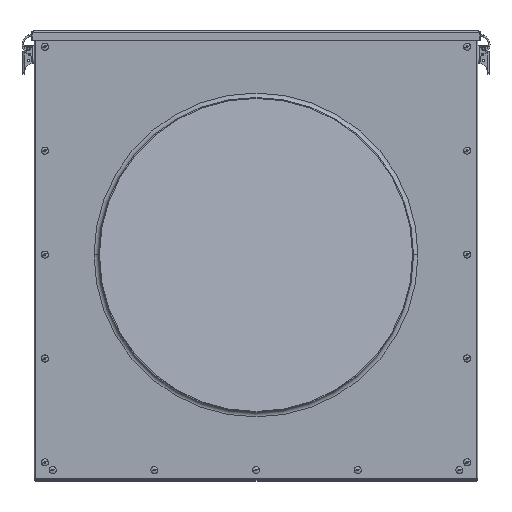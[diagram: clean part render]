
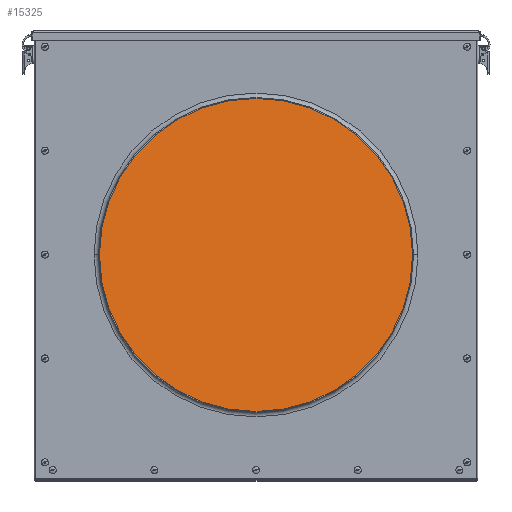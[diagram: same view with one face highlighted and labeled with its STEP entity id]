
A CAD part, top view. The second image highlights one B-rep face of the part: STEP entity #15325.
In plain terms, the highlighted planar face has unit normal (0.26, 0, 0.966).
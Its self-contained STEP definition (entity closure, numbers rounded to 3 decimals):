
#110 = CARTESIAN_POINT ( 'NONE',  ( 246.981, 4.2, -63.728 ) ) ;
#385 = ORIENTED_EDGE ( 'NONE', *, *, #1447, .F. ) ;
#1091 = CARTESIAN_POINT ( 'NONE',  ( 246.981, 501.2, -63.728 ) ) ;
#1447 = EDGE_CURVE ( 'NONE', #17504, #10207, #6367, .T. ) ;
#2360 = FACE_OUTER_BOUND ( 'NONE', #14564, .T. ) ;
#3472 = LINE ( 'NONE', #12459, #18465 ) ;
#3854 = DIRECTION ( 'NONE',  ( 0., -1., 0. ) ) ;
#4026 = ORIENTED_EDGE ( 'NONE', *, *, #6902, .F. ) ;
#4093 = DIRECTION ( 'NONE',  ( 0.965, 0., -0.26 ) ) ;
#4460 = DIRECTION ( 'NONE',  ( 0.26, 0., 0.965 ) ) ;
#5505 = LINE ( 'NONE', #12816, #16667 ) ;
#5772 = EDGE_CURVE ( 'NONE', #12453, #17504, #8626, .T. ) ;
#6367 = LINE ( 'NONE', #110, #17971 ) ;
#6902 = EDGE_CURVE ( 'NONE', #10207, #13678, #3472, .T. ) ;
#7064 = EDGE_CURVE ( 'NONE', #13678, #12453, #5505, .T. ) ;
#8626 = LINE ( 'NONE', #1091, #15938 ) ;
#8638 = AXIS2_PLACEMENT_3D ( 'NONE', #16051, #4460, #14654 ) ;
#9141 = CARTESIAN_POINT ( 'NONE',  ( -245.419, 4.2, 69.096 ) ) ;
#9687 = CARTESIAN_POINT ( 'NONE',  ( 246.981, 4.2, -63.728 ) ) ;
#10207 = VERTEX_POINT ( 'NONE', #9141 ) ;
#10365 = CARTESIAN_POINT ( 'NONE',  ( 246.981, 501.2, -63.728 ) ) ;
#11729 = DIRECTION ( 'NONE',  ( -0.965, 0., 0.26 ) ) ;
#11836 = ORIENTED_EDGE ( 'NONE', *, *, #5772, .F. ) ;
#12453 = VERTEX_POINT ( 'NONE', #10365 ) ;
#12459 = CARTESIAN_POINT ( 'NONE',  ( -245.419, 501.2, 69.096 ) ) ;
#12816 = CARTESIAN_POINT ( 'NONE',  ( 246.981, 501.2, -63.728 ) ) ;
#13172 = PLANE ( 'NONE',  #8638 ) ;
#13678 = VERTEX_POINT ( 'NONE', #14193 ) ;
#14193 = CARTESIAN_POINT ( 'NONE',  ( -245.419, 501.2, 69.096 ) ) ;
#14564 = EDGE_LOOP ( 'NONE', ( #17907, #4026, #385, #11836 ) ) ;
#14654 = DIRECTION ( 'NONE',  ( 0., 1., 0. ) ) ;
#15325 = ADVANCED_FACE ( 'NONE', ( #2360 ), #13172, .T. ) ;
#15938 = VECTOR ( 'NONE', #3854, 1000. ) ;
#16051 = CARTESIAN_POINT ( 'NONE',  ( -245.419, 501.2, 69.096 ) ) ;
#16637 = DIRECTION ( 'NONE',  ( 0., 1., 0. ) ) ;
#16667 = VECTOR ( 'NONE', #4093, 1000. ) ;
#17504 = VERTEX_POINT ( 'NONE', #9687 ) ;
#17907 = ORIENTED_EDGE ( 'NONE', *, *, #7064, .F. ) ;
#17971 = VECTOR ( 'NONE', #11729, 1000. ) ;
#18465 = VECTOR ( 'NONE', #16637, 1000. ) ;
